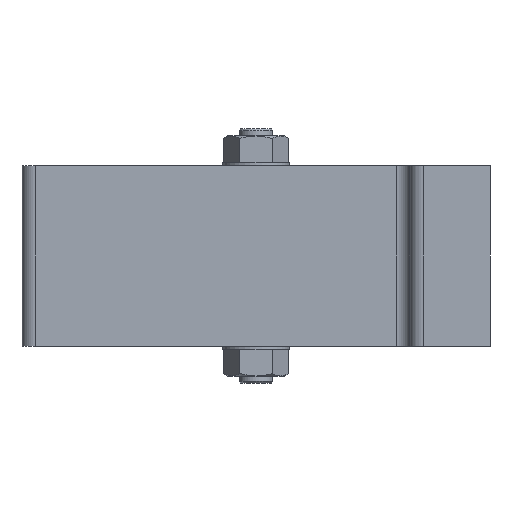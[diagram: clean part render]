
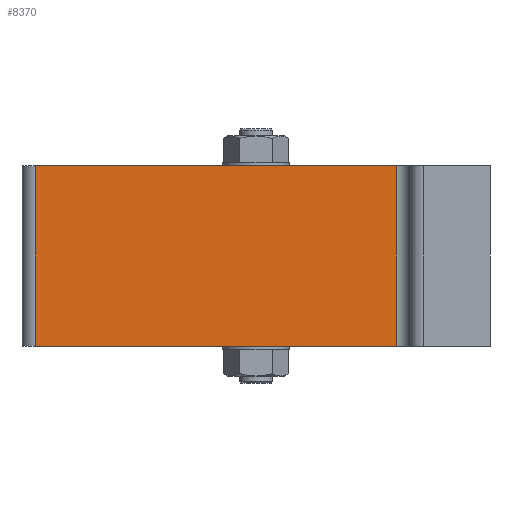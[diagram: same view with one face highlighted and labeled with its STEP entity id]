
A CAD part, left-side view. The second image highlights one B-rep face of the part: STEP entity #8370.
In plain terms, the highlighted planar face has unit normal (-1, 0, 0).
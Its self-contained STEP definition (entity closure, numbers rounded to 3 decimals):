
#6437=CARTESIAN_POINT('',(-70.,66.,54.0));
#6438=VERTEX_POINT('',#6437);
#6446=CARTESIAN_POINT('',(-70.,-42.,54.0));
#6447=VERTEX_POINT('',#6446);
#6448=CARTESIAN_POINT('',(-70.,-42.,54.0));
#6449=DIRECTION('',(0.0,1.0,0.0));
#6450=VECTOR('',#6449,108.0);
#6451=LINE('',#6448,#6450);
#6452=EDGE_CURVE('',#6447,#6438,#6451,.T.);
#8328=CARTESIAN_POINT('',(-70.,-42.,0.0));
#8329=VERTEX_POINT('',#8328);
#8330=CARTESIAN_POINT('',(-70.,-42.,0.0));
#8331=DIRECTION('',(0.0,0.0,1.0));
#8332=VECTOR('',#8331,54.0);
#8333=LINE('',#8330,#8332);
#8334=EDGE_CURVE('',#8329,#6447,#8333,.T.);
#8347=CARTESIAN_POINT('',(-70.,-42.,0.0));
#8348=DIRECTION('',(-1.0,0.0,0.0));
#8349=DIRECTION('',(0.0,0.0,1.0));
#8350=AXIS2_PLACEMENT_3D('',#8347,#8348,#8349);
#8351=PLANE('',#8350);
#8352=ORIENTED_EDGE('',*,*,#6452,.T.);
#8353=CARTESIAN_POINT('',(-70.,66.,0.0));
#8354=VERTEX_POINT('',#8353);
#8355=CARTESIAN_POINT('',(-70.,66.,0.0));
#8356=DIRECTION('',(0.0,0.0,1.0));
#8357=VECTOR('',#8356,54.0);
#8358=LINE('',#8355,#8357);
#8359=EDGE_CURVE('',#8354,#6438,#8358,.T.);
#8360=ORIENTED_EDGE('',*,*,#8359,.F.);
#8361=CARTESIAN_POINT('',(-70.,-42.,0.0));
#8362=DIRECTION('',(0.0,1.0,0.0));
#8363=VECTOR('',#8362,108.0);
#8364=LINE('',#8361,#8363);
#8365=EDGE_CURVE('',#8329,#8354,#8364,.T.);
#8366=ORIENTED_EDGE('',*,*,#8365,.F.);
#8367=ORIENTED_EDGE('',*,*,#8334,.T.);
#8368=EDGE_LOOP('',(#8352,#8360,#8366,#8367));
#8369=FACE_OUTER_BOUND('',#8368,.T.);
#8370=ADVANCED_FACE('',(#8369),#8351,.T.);
